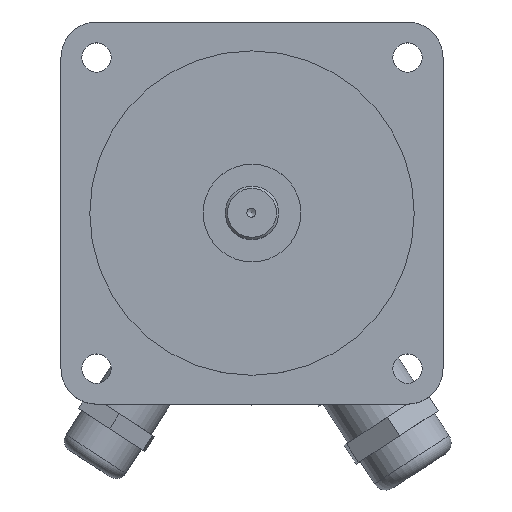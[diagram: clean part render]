
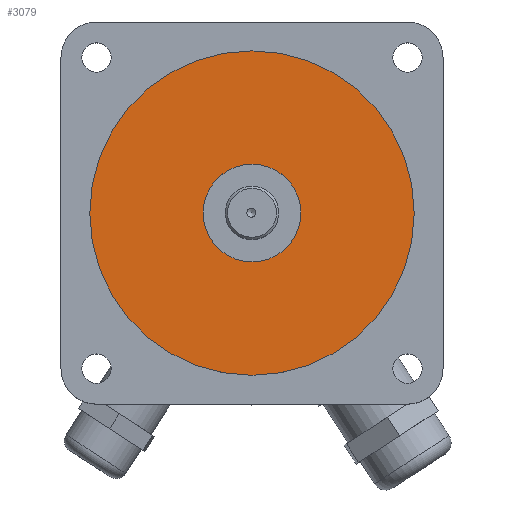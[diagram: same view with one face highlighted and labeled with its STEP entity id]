
A CAD part, top view. The second image highlights one B-rep face of the part: STEP entity #3079.
In plain terms, the highlighted planar face has unit normal (0, 0, 1).
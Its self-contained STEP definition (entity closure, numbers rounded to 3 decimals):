
#3016=CARTESIAN_POINT('',(-80.773,-89.811,53.505));
#3017=VERTEX_POINT('',#3016);
#3018=CARTESIAN_POINT('',(-69.773,-89.811,53.505));
#3019=DIRECTION('',(0.0,0.0,-1.0));
#3020=DIRECTION('',(1.0,0.0,0.0));
#3021=AXIS2_PLACEMENT_3D('',#3018,#3019,#3020);
#3022=CIRCLE('',#3021,11.0);
#3023=EDGE_CURVE('',#3017,#3017,#3022,.T.);
#3045=CARTESIAN_POINT('',(-106.273,-89.811,53.505));
#3046=VERTEX_POINT('',#3045);
#3047=CARTESIAN_POINT('',(-69.773,-89.811,53.505));
#3048=DIRECTION('',(0.0,0.0,-1.0));
#3049=DIRECTION('',(1.0,0.0,0.0));
#3050=AXIS2_PLACEMENT_3D('',#3047,#3048,#3049);
#3051=CIRCLE('',#3050,36.5);
#3052=EDGE_CURVE('',#3046,#3046,#3051,.T.);
#3068=CARTESIAN_POINT('',(-69.773,-89.811,53.505));
#3069=DIRECTION('',(0.0,0.0,-1.0));
#3070=DIRECTION('',(1.0,0.0,0.0));
#3071=AXIS2_PLACEMENT_3D('',#3068,#3069,#3070);
#3072=PLANE('',#3071);
#3073=ORIENTED_EDGE('',*,*,#3052,.F.);
#3074=EDGE_LOOP('',(#3073));
#3075=FACE_OUTER_BOUND('',#3074,.T.);
#3076=ORIENTED_EDGE('',*,*,#3023,.T.);
#3077=EDGE_LOOP('',(#3076));
#3078=FACE_BOUND('',#3077,.T.);
#3079=ADVANCED_FACE('',(#3075,#3078),#3072,.F.);
